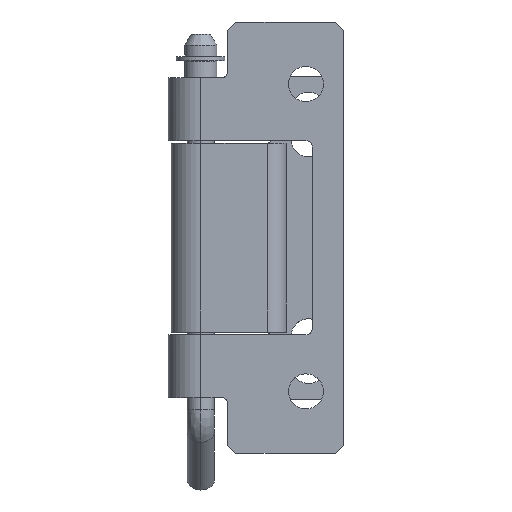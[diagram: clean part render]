
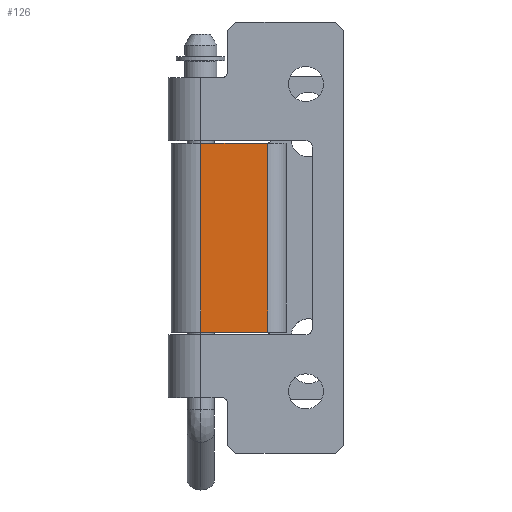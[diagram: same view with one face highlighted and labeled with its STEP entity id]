
A CAD part, top view. The second image highlights one B-rep face of the part: STEP entity #126.
In plain terms, the highlighted planar face has unit normal (0, 0, 1).
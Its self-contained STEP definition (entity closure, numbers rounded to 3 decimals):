
#126=ADVANCED_FACE('',(#237),#1923,.T.);
#237=FACE_OUTER_BOUND('',#363,.T.);
#363=EDGE_LOOP('',(#847,#848,#849,#850));
#847=ORIENTED_EDGE('',*,*,#1184,.T.);
#848=ORIENTED_EDGE('',*,*,#1185,.T.);
#849=ORIENTED_EDGE('',*,*,#1186,.F.);
#850=ORIENTED_EDGE('',*,*,#1182,.F.);
#1182=EDGE_CURVE('',#1782,#1783,#1289,.T.);
#1184=EDGE_CURVE('',#1782,#1784,#1609,.T.);
#1185=EDGE_CURVE('',#1784,#1785,#1610,.T.);
#1186=EDGE_CURVE('',#1783,#1785,#1611,.T.);
#1289=(
BOUNDED_CURVE()
B_SPLINE_CURVE(1,(#3534,#3535),.UNSPECIFIED.,.F.,.F.)
B_SPLINE_CURVE_WITH_KNOTS((2,2),(0.,35.),.UNSPECIFIED.)
CURVE()
GEOMETRIC_REPRESENTATION_ITEM()
RATIONAL_B_SPLINE_CURVE((1.,1.))
REPRESENTATION_ITEM('')
);
#1609=B_SPLINE_CURVE_WITH_KNOTS('',1,(#3539,#3540),.UNSPECIFIED.,.F.,.F.,
(2,2),(18.858,31.241),.UNSPECIFIED.);
#1610=B_SPLINE_CURVE_WITH_KNOTS('',1,(#3541,#3542),.UNSPECIFIED.,.F.,.F.,
(2,2),(0.,35.),.UNSPECIFIED.);
#1611=B_SPLINE_CURVE_WITH_KNOTS('',1,(#3543,#3544),.UNSPECIFIED.,.F.,.F.,
(2,2),(18.858,31.241),.UNSPECIFIED.);
#1782=VERTEX_POINT('',#3353);
#1783=VERTEX_POINT('',#3354);
#1784=VERTEX_POINT('',#3355);
#1785=VERTEX_POINT('',#3356);
#1923=PLANE('',#2176);
#2176=AXIS2_PLACEMENT_3D('',#3304,#2465,$);
#2465=DIRECTION('',(0.,0.,1.));
#3304=CARTESIAN_POINT('',(-4.843,-17.5,7.027));
#3353=CARTESIAN_POINT('',(-4.843,-17.5,7.027));
#3354=CARTESIAN_POINT('',(-4.843,17.5,7.027));
#3355=CARTESIAN_POINT('',(7.54,-17.5,7.027));
#3356=CARTESIAN_POINT('',(7.54,17.5,7.027));
#3534=CARTESIAN_POINT('',(-4.843,-17.5,7.027));
#3535=CARTESIAN_POINT('',(-4.843,17.5,7.027));
#3539=CARTESIAN_POINT('',(-4.843,-17.5,7.027));
#3540=CARTESIAN_POINT('',(7.54,-17.5,7.027));
#3541=CARTESIAN_POINT('',(7.54,-17.5,7.027));
#3542=CARTESIAN_POINT('',(7.54,17.5,7.027));
#3543=CARTESIAN_POINT('',(-4.843,17.5,7.027));
#3544=CARTESIAN_POINT('',(7.54,17.5,7.027));
